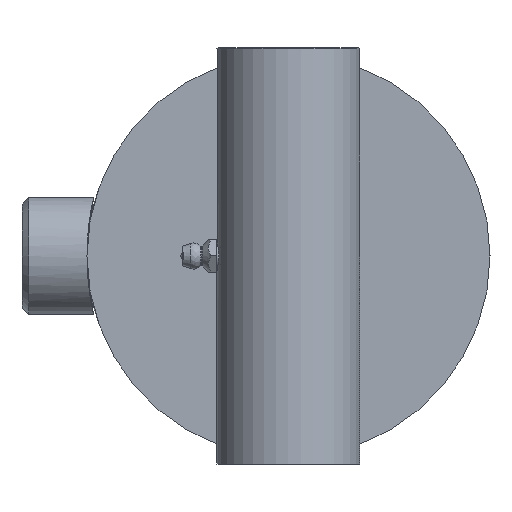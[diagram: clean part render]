
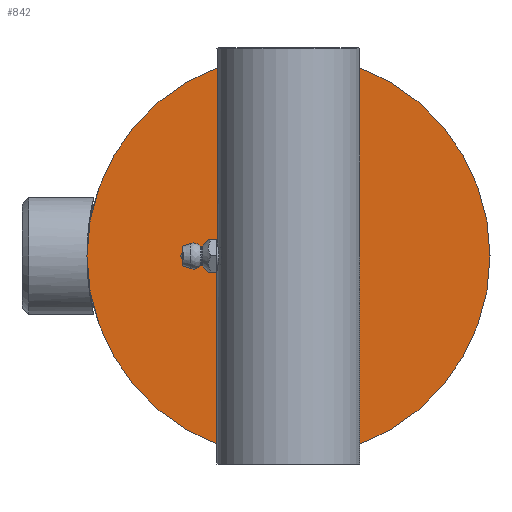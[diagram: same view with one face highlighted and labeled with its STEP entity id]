
A CAD part, left-side view. The second image highlights one B-rep face of the part: STEP entity #842.
In plain terms, the highlighted planar face has unit normal (-1, 0, 0) as drawn and (0, 0, 1) by its records, which use the part's own axes.
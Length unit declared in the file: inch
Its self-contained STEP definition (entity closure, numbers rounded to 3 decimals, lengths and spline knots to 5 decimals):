
#822=CARTESIAN_POINT('',(1.9375,0.,0.5));
#823=VERTEX_POINT('',#822);
#824=CARTESIAN_POINT('',(0.0,0.0,0.5));
#825=DIRECTION('',(0.0,0.0,-1.0));
#826=DIRECTION('',(-1.0,0.0,0.0));
#827=AXIS2_PLACEMENT_3D('',#824,#825,#826);
#828=CIRCLE('',#827,1.9375);
#829=EDGE_CURVE('',#823,#823,#828,.T.);
#834=CARTESIAN_POINT('',(0.0,0.0,0.5));
#835=DIRECTION('',(0.0,0.0,-1.0));
#836=DIRECTION('',(-1.0,0.0,0.0));
#837=AXIS2_PLACEMENT_3D('',#834,#835,#836);
#838=PLANE('',#837);
#839=ORIENTED_EDGE('',*,*,#829,.F.);
#840=EDGE_LOOP('',(#839));
#841=FACE_OUTER_BOUND('',#840,.T.);
#842=ADVANCED_FACE('',(#841),#838,.F.);
